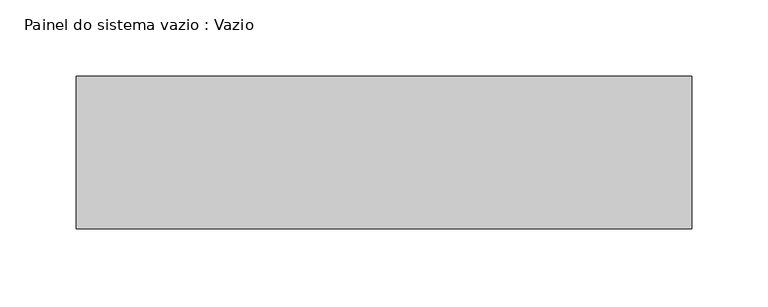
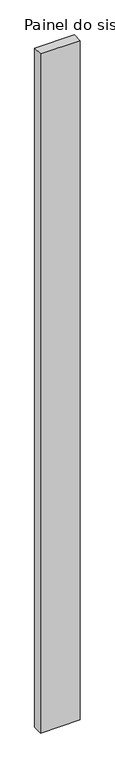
"""IFC4 building model written with IfcOpenShell, lengths in millimetres: plate geometry, Painel do sistema vazio : Vazio."""

from ifc_helpers import new_model, si_unit, origin, origin_with_axes, place, context, project, spatial, polyline, outline, extrude, source, transform, mapped, element, save


def painel_do_sistema_vazio_vazio_0112bb93(model_context):
    return source(origin(), model_context, "Body", "SweptSolid", [
        extrude(outline(polyline([(201.875, -50.0), (-201.875, -50.0), (-201.875, 50.0), (201.875, 50.0), (201.875, -50.0)])), origin_with_axes(), (0.0, 0.0, 1.0), 7288.0957915),
    ])


if __name__ == "__main__":
    model = new_model("IFC4")
    model_context = context("Model", 3, world=origin())
    ifc_project = project(units=[si_unit("LENGTHUNIT", "METRE", prefix="MILLI")], contexts=[model_context])
    site = spatial("IfcSite", under=ifc_project)
    building = spatial("IfcBuilding", under=site)
    placement = place(None, origin())
    painel_do_sistema_vazio_vazio_shape = painel_do_sistema_vazio_vazio_0112bb93(model_context)
    element("IfcPlate", 1, ObjectType="Painel do sistema vazio : Vazio", at=placement, inside=building, context=model_context, shape_type="MappedRepresentation", body=[
        mapped(painel_do_sistema_vazio_vazio_shape, transform((0.0, 0.0, 0.0), x_axis=(1.0, 0.0, 0.0), y_axis=(0.0, 1.0, 0.0), z_axis=(0.0, 0.0, 1.0))),
    ])
    save(model, "model.ifc")
